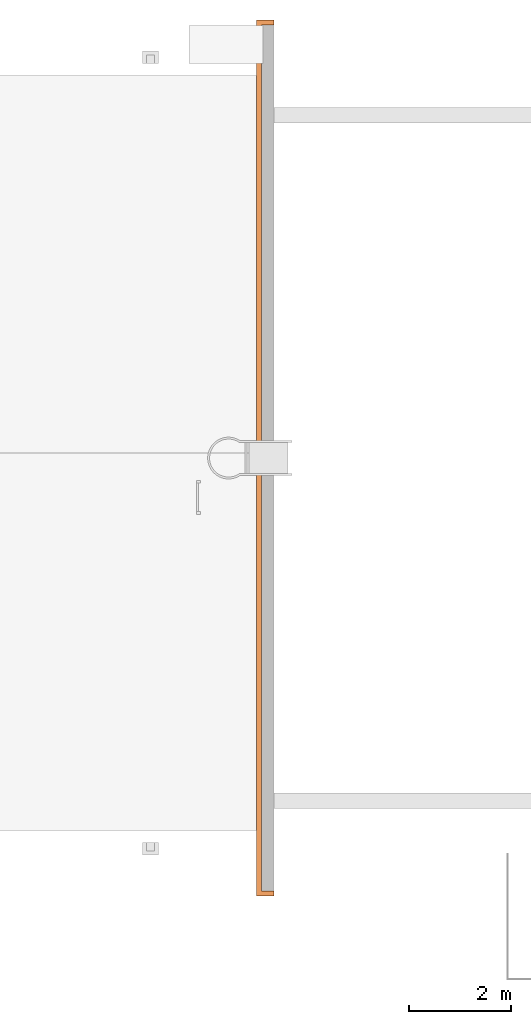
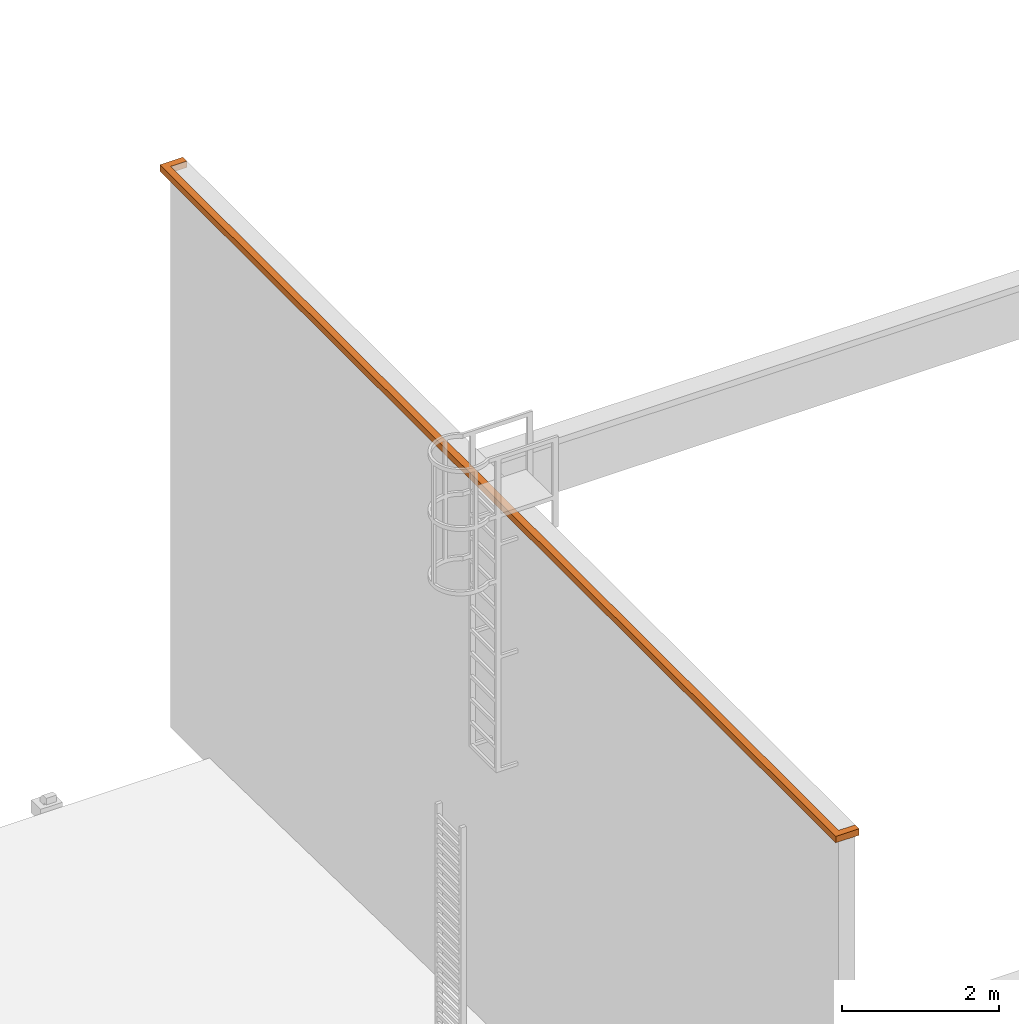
# One storey, part 6 of 6: 1 proxy.
"""IFC2X3 building model written with IfcOpenShell, lengths in millimetres."""

from ifc_helpers import new_model, entity, si_unit, converted_unit, derived_unit, direction, frame, origin, place, context, subcontext, project, spatial, faceted_brep, element, save


model = new_model("IFC2X3")

# Units and contexts
model_context = context("Model", 3, precision=0.01, world=origin(), true_north=direction((6.12303176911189e-17, 1.0)))
body_context = subcontext(model_context, "Body", "Model", "MODEL_VIEW")
ifc_project = project(units=[si_unit("LENGTHUNIT", "METRE", prefix="MILLI"), si_unit("AREAUNIT", "SQUARE_METRE"), si_unit("VOLUMEUNIT", "CUBIC_METRE"), converted_unit("PLANEANGLEUNIT", "DEGREE", entity("IfcRatioMeasure", 0.0174532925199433), si_unit("PLANEANGLEUNIT", "RADIAN"), dimensions=[0, 0, 0, 0, 0, 0, 0]), si_unit("MASSUNIT", "GRAM", prefix="KILO"), derived_unit("MASSDENSITYUNIT", [(si_unit("MASSUNIT", "GRAM", prefix="KILO"), 1), (si_unit("LENGTHUNIT", "METRE"), -3)]), si_unit("TIMEUNIT", "SECOND"), si_unit("FREQUENCYUNIT", "HERTZ"), si_unit("THERMODYNAMICTEMPERATUREUNIT", "DEGREE_CELSIUS"), derived_unit("THERMALTRANSMITTANCEUNIT", [(si_unit("MASSUNIT", "GRAM", prefix="KILO"), 1), (si_unit("THERMODYNAMICTEMPERATUREUNIT", "KELVIN"), -1), (si_unit("TIMEUNIT", "SECOND"), -3)]), derived_unit("VOLUMETRICFLOWRATEUNIT", [(si_unit("LENGTHUNIT", "METRE"), 3), (si_unit("TIMEUNIT", "SECOND"), -1)]), si_unit("ELECTRICCURRENTUNIT", "AMPERE"), si_unit("ELECTRICVOLTAGEUNIT", "VOLT"), si_unit("POWERUNIT", "WATT"), si_unit("FORCEUNIT", "NEWTON", prefix="KILO"), si_unit("ILLUMINANCEUNIT", "LUX"), si_unit("LUMINOUSFLUXUNIT", "LUMEN"), si_unit("LUMINOUSINTENSITYUNIT", "CANDELA"), derived_unit("USERDEFINED", [(si_unit("MASSUNIT", "GRAM", prefix="KILO"), -1), (si_unit("LENGTHUNIT", "METRE"), -2), (si_unit("TIMEUNIT", "SECOND"), 3), (si_unit("LUMINOUSFLUXUNIT", "LUMEN"), 1)]), derived_unit("LINEARVELOCITYUNIT", [(si_unit("LENGTHUNIT", "METRE"), 1), (si_unit("TIMEUNIT", "SECOND"), -1)]), si_unit("PRESSUREUNIT", "PASCAL"), derived_unit("USERDEFINED", [(si_unit("LENGTHUNIT", "METRE"), -2), (si_unit("MASSUNIT", "GRAM", prefix="KILO"), 1), (si_unit("TIMEUNIT", "SECOND"), -2)])], contexts=[model_context])

# Site, building, storey
site_placement = place(None, origin())
site = spatial("IfcSite", under=ifc_project, at=site_placement, Name="表面", CompositionType="ELEMENT")
building_placement = place(site_placement, origin())
building = spatial("IfcBuilding", under=site, at=building_placement, CompositionType="ELEMENT")
storey_placement = place(building_placement, frame((0.0, 0.0, 3300.0)))
storey = spatial("IfcBuildingStorey", under=building, at=storey_placement, Name="3.3000", CompositionType="ELEMENT", Elevation=3300.0)

# Proxy
proxy_placement = place(storey_placement, frame((-32368.798781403, -480.302592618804, 8600.0)))
element("IfcBuildingElementProxy", 1, at=proxy_placement, inside=storey, Name="墙饰条:压顶", ObjectType="墙饰条:压顶", context=body_context, shape_type="Brep", body=[
    faceted_brep([(0.0, 0.0, 0.0), (0.0, 0.0, 100.0), (0.0, 17180.0, 100.0), (0.0, 17180.0, 0.0), (100.0, 100.0, 0.0), (100.0, 17080.0, 0.0), (100.0, 100.0, 100.0), (100.0, 17080.0, 100.0), (340.0, 0.0, 100.0), (340.0, 0.0, 0.0), (340.0, 100.0, 0.0), (340.0, 100.0, 100.0), (340.0, 17180.0, 100.0), (340.0, 17080.0, 100.0), (340.0, 17080.0, 0.0), (340.0, 17180.0, 0.0)], [[[0, 1, 2, 3]], [[4, 0, 3, 5]], [[6, 4, 5, 7]], [[1, 6, 7, 2]], [[8, 9, 10, 11]], [[9, 8, 1, 0]], [[10, 9, 0, 4]], [[11, 10, 4, 6]], [[8, 11, 6, 1]], [[12, 13, 14, 15]], [[3, 2, 12, 15]], [[5, 3, 15, 14]], [[7, 5, 14, 13]], [[2, 7, 13, 12]]]),
])

save(model, "model.ifc")
